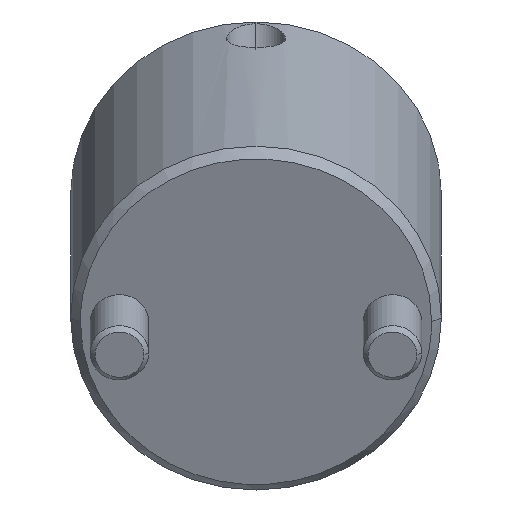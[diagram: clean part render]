
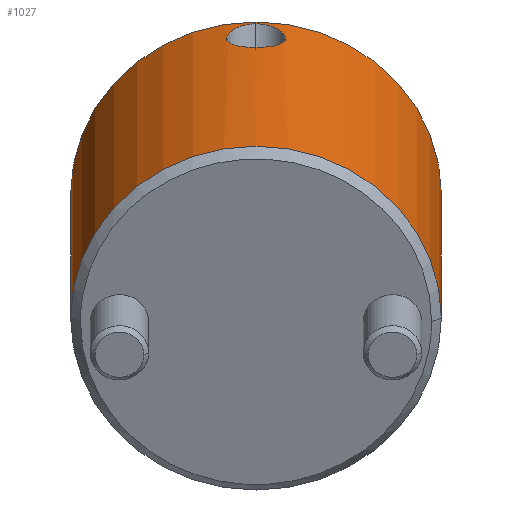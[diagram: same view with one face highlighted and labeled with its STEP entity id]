
A CAD part, front view. The second image highlights one B-rep face of the part: STEP entity #1027.
In plain terms, the highlighted cylindrical face has radius 19 mm (diameter 38 mm), a partial arc.
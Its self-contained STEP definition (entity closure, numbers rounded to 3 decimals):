
#763=CARTESIAN_POINT('Vertex',(0.,19.,1.)) ;
#766=CARTESIAN_POINT('Axis2P3D Location',(0.,0.,1.)) ;
#770=CARTESIAN_POINT('Vertex',(0.,-19.,1.)) ;
#922=CARTESIAN_POINT('Axis2P3D Location',(0.,0.,-1.8)) ;
#927=CARTESIAN_POINT('Line Origine',(0.,19.,-1.8)) ;
#931=CARTESIAN_POINT('Vertex',(0.,19.,35.)) ;
#934=CARTESIAN_POINT('Axis2P3D Location',(0.,0.,35.)) ;
#938=CARTESIAN_POINT('Vertex',(0.,-19.,35.)) ;
#941=CARTESIAN_POINT('Line Origine',(0.,-19.,-1.8)) ;
#953=CARTESIAN_POINT('Control Point',(19.,0.,34.507)) ;
#954=CARTESIAN_POINT('Control Point',(19.,0.078,34.507)) ;
#955=CARTESIAN_POINT('Control Point',(19.,0.156,34.504)) ;
#956=CARTESIAN_POINT('Control Point',(18.999,0.234,34.499)) ;
#957=CARTESIAN_POINT('Control Point',(18.995,0.47,34.472)) ;
#958=CARTESIAN_POINT('Control Point',(18.988,0.703,34.419)) ;
#959=CARTESIAN_POINT('Control Point',(18.981,0.862,34.37)) ;
#960=CARTESIAN_POINT('Control Point',(18.965,1.168,34.251)) ;
#961=CARTESIAN_POINT('Control Point',(18.945,1.453,34.089)) ;
#962=CARTESIAN_POINT('Control Point',(18.934,1.593,33.995)) ;
#963=CARTESIAN_POINT('Control Point',(18.91,1.863,33.786)) ;
#964=CARTESIAN_POINT('Control Point',(18.883,2.106,33.539)) ;
#965=CARTESIAN_POINT('Control Point',(18.87,2.221,33.405)) ;
#966=CARTESIAN_POINT('Control Point',(18.837,2.49,33.046)) ;
#967=CARTESIAN_POINT('Control Point',(18.807,2.702,32.64)) ;
#968=CARTESIAN_POINT('Control Point',(18.792,2.805,32.385)) ;
#969=CARTESIAN_POINT('Control Point',(18.772,2.935,31.94)) ;
#970=CARTESIAN_POINT('Control Point',(18.763,2.994,31.483)) ;
#971=CARTESIAN_POINT('Control Point',(18.761,3.005,31.302)) ;
#972=CARTESIAN_POINT('Control Point',(18.761,3.004,30.851)) ;
#973=CARTESIAN_POINT('Control Point',(18.773,2.929,30.409)) ;
#974=CARTESIAN_POINT('Control Point',(18.784,2.861,30.153)) ;
#975=CARTESIAN_POINT('Control Point',(18.812,2.672,29.665)) ;
#976=CARTESIAN_POINT('Control Point',(18.85,2.389,29.227)) ;
#977=CARTESIAN_POINT('Control Point',(18.87,2.229,29.028)) ;
#978=CARTESIAN_POINT('Control Point',(18.904,1.929,28.729)) ;
#979=CARTESIAN_POINT('Control Point',(18.935,1.584,28.489)) ;
#980=CARTESIAN_POINT('Control Point',(18.946,1.44,28.403)) ;
#981=CARTESIAN_POINT('Control Point',(18.971,1.083,28.223)) ;
#982=CARTESIAN_POINT('Control Point',(18.989,0.697,28.106)) ;
#983=CARTESIAN_POINT('Control Point',(18.996,0.466,28.059)) ;
#984=CARTESIAN_POINT('Control Point',(19.,0.234,28.036)) ;
#985=CARTESIAN_POINT('Control Point',(19.,0.,28.036)) ;
#986=CARTESIAN_POINT('Vertex',(19.,0.,34.507)) ;
#988=CARTESIAN_POINT('Vertex',(19.,0.,28.036)) ;
#992=CARTESIAN_POINT('Control Point',(19.,0.,28.036)) ;
#993=CARTESIAN_POINT('Control Point',(19.,-0.083,28.036)) ;
#994=CARTESIAN_POINT('Control Point',(19.,-0.167,28.039)) ;
#995=CARTESIAN_POINT('Control Point',(18.999,-0.25,28.045)) ;
#996=CARTESIAN_POINT('Control Point',(18.995,-0.498,28.071)) ;
#997=CARTESIAN_POINT('Control Point',(18.987,-0.743,28.124)) ;
#998=CARTESIAN_POINT('Control Point',(18.979,-0.906,28.171)) ;
#999=CARTESIAN_POINT('Control Point',(18.954,-1.38,28.345)) ;
#1000=CARTESIAN_POINT('Control Point',(18.917,-1.805,28.617)) ;
#1001=CARTESIAN_POINT('Control Point',(18.89,-2.065,28.838)) ;
#1002=CARTESIAN_POINT('Control Point',(18.842,-2.459,29.289)) ;
#1003=CARTESIAN_POINT('Control Point',(18.802,-2.738,29.829)) ;
#1004=CARTESIAN_POINT('Control Point',(18.788,-2.834,30.072)) ;
#1005=CARTESIAN_POINT('Control Point',(18.769,-2.952,30.499)) ;
#1006=CARTESIAN_POINT('Control Point',(18.762,-2.999,30.944)) ;
#1007=CARTESIAN_POINT('Control Point',(18.761,-3.007,31.124)) ;
#1008=CARTESIAN_POINT('Control Point',(18.762,-2.996,31.58)) ;
#1009=CARTESIAN_POINT('Control Point',(18.776,-2.91,32.034)) ;
#1010=CARTESIAN_POINT('Control Point',(18.788,-2.833,32.302)) ;
#1011=CARTESIAN_POINT('Control Point',(18.818,-2.629,32.814)) ;
#1012=CARTESIAN_POINT('Control Point',(18.857,-2.334,33.273)) ;
#1013=CARTESIAN_POINT('Control Point',(18.877,-2.167,33.484)) ;
#1014=CARTESIAN_POINT('Control Point',(18.91,-1.864,33.795)) ;
#1015=CARTESIAN_POINT('Control Point',(18.94,-1.519,34.046)) ;
#1016=CARTESIAN_POINT('Control Point',(18.951,-1.378,34.134)) ;
#1017=CARTESIAN_POINT('Control Point',(18.974,-1.034,34.316)) ;
#1018=CARTESIAN_POINT('Control Point',(18.99,-0.66,34.437)) ;
#1019=CARTESIAN_POINT('Control Point',(18.997,-0.44,34.485)) ;
#1020=CARTESIAN_POINT('Control Point',(19.,-0.221,34.507)) ;
#1021=CARTESIAN_POINT('Control Point',(19.,0.,34.507)) ;
#767=DIRECTION('Axis2P3D Direction',(0.,0.,1.)) ;
#923=DIRECTION('Axis2P3D Direction',(0.,-0.,1.)) ;
#924=DIRECTION('Axis2P3D XDirection',(0.,-1.,0.)) ;
#928=DIRECTION('Vector Direction',(0.,0.,1.)) ;
#935=DIRECTION('Axis2P3D Direction',(0.,-0.,1.)) ;
#942=DIRECTION('Vector Direction',(0.,0.,1.)) ;
#768=AXIS2_PLACEMENT_3D('Circle Axis2P3D',#766,#767,$) ;
#925=AXIS2_PLACEMENT_3D('Cylinder Axis2P3D',#922,#923,#924) ;
#936=AXIS2_PLACEMENT_3D('Circle Axis2P3D',#934,#935,$) ;
#947=ORIENTED_EDGE('',*,*,#933,.F.) ;
#948=ORIENTED_EDGE('',*,*,#940,.T.) ;
#949=ORIENTED_EDGE('',*,*,#945,.T.) ;
#950=ORIENTED_EDGE('',*,*,#772,.F.) ;
#1024=ORIENTED_EDGE('',*,*,#990,.T.) ;
#1025=ORIENTED_EDGE('',*,*,#1022,.T.) ;
#1026=FACE_BOUND('',#1023,.T.) ;
#929=VECTOR('Line Direction',#928,1.) ;
#943=VECTOR('Line Direction',#942,1.) ;
#1027=ADVANCED_FACE('MANIFOLD_SOLID_BREP #1116',(#951,#1026),#926,.T.) ;
#952=B_SPLINE_CURVE_WITH_KNOTS('',5,(#953,#954,#955,#956,#957,#958,#959,#960,#961,#962,#963,#964,#965,#966,#967,#968,#969,#970,#971,#972,#973,#974,#975,#976,#977,#978,#979,#980,#981,#982,#983,#984,#985),.UNSPECIFIED.,.F.,.U.,(6,3,3,3,3,3,3,3,3,3,6),(0.,0.58,1.759,2.976,4.225,6.108,7.354,9.198,11.01,12.214,13.887),.UNSPECIFIED.) ;
#991=B_SPLINE_CURVE_WITH_KNOTS('',5,(#992,#993,#994,#995,#996,#997,#998,#999,#1000,#1001,#1002,#1003,#1004,#1005,#1006,#1007,#1008,#1009,#1010,#1011,#1012,#1013,#1014,#1015,#1016,#1017,#1018,#1019,#1020,#1021),.UNSPECIFIED.,.F.,.U.,(6,3,3,3,3,3,3,3,3,6),(0.,0.6,1.803,4.225,6.063,7.301,9.178,11.046,12.251,13.886),.UNSPECIFIED.) ;
#769=CIRCLE('generated circle',#768,19.) ;
#937=CIRCLE('generated circle',#936,19.) ;
#926=CYLINDRICAL_SURFACE('generated cylinder',#925,19.) ;
#772=EDGE_CURVE('',#764,#771,#769,.F.) ;
#933=EDGE_CURVE('',#932,#764,#930,.F.) ;
#940=EDGE_CURVE('',#932,#939,#937,.F.) ;
#945=EDGE_CURVE('',#939,#771,#944,.F.) ;
#990=EDGE_CURVE('',#987,#989,#952,.T.) ;
#1022=EDGE_CURVE('',#989,#987,#991,.T.) ;
#946=EDGE_LOOP('',(#947,#948,#949,#950)) ;
#1023=EDGE_LOOP('',(#1024,#1025)) ;
#951=FACE_OUTER_BOUND('',#946,.T.) ;
#930=LINE('Line',#927,#929) ;
#944=LINE('Line',#941,#943) ;
#764=VERTEX_POINT('',#763) ;
#771=VERTEX_POINT('',#770) ;
#932=VERTEX_POINT('',#931) ;
#939=VERTEX_POINT('',#938) ;
#987=VERTEX_POINT('',#986) ;
#989=VERTEX_POINT('',#988) ;
